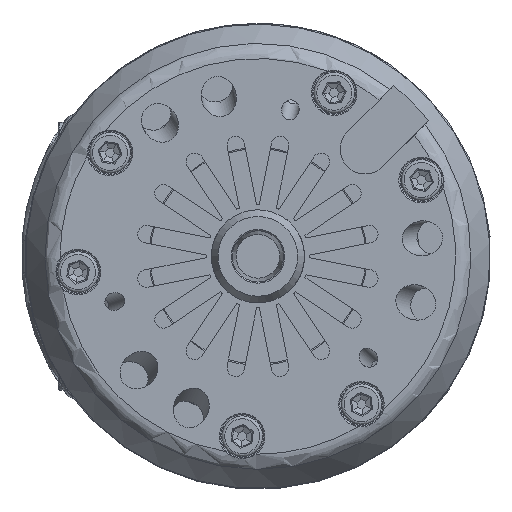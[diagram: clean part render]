
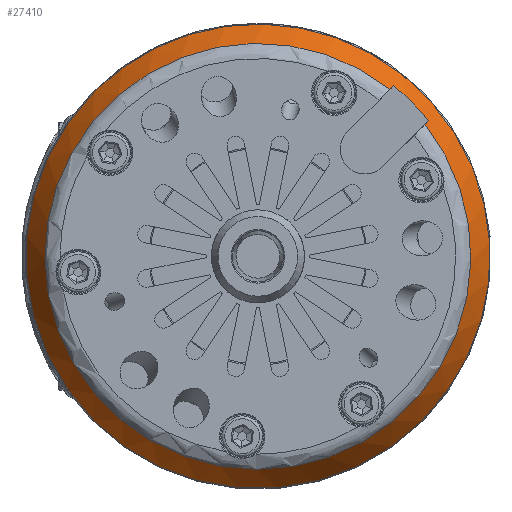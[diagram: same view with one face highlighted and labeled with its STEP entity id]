
A CAD part, front view. The second image highlights one B-rep face of the part: STEP entity #27410.
In plain terms, the highlighted conical face has half-angle 30 degrees and reference radius 36.566 mm.
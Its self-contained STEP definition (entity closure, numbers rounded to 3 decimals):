
#3750 = DIRECTION ( 'NONE',  ( 0.707, 0., -0.707 ) ) ;
#4269 = ORIENTED_EDGE ( 'NONE', *, *, #5049, .T. ) ;
#5049 = EDGE_CURVE ( 'NONE', #12647, #12647, #31933, .T. ) ;
#8217 = CIRCLE ( 'NONE', #28400, 37.432 ) ;
#9397 = CARTESIAN_POINT ( 'NONE',  ( 29.303, -16.2, 23.292 ) ) ;
#10960 = FACE_OUTER_BOUND ( 'NONE', #36426, .T. ) ;
#12647 = VERTEX_POINT ( 'NONE', #46220 ) ;
#16414 = CARTESIAN_POINT ( 'NONE',  ( 22.881, -17.2, 28.892 ) ) ;
#16880 = CARTESIAN_POINT ( 'NONE',  ( 0., -11.984, 0. ) ) ;
#19943 = VERTEX_POINT ( 'NONE', #52050 ) ;
#21106 = DIRECTION ( 'NONE',  ( 0., -1., 0. ) ) ;
#21544 = DIRECTION ( 'NONE',  ( 0., -1., 0. ) ) ;
#24683 = CARTESIAN_POINT ( 'NONE',  ( 23.087, -16.7, 29.097 ) ) ;
#25737 = CARTESIAN_POINT ( 'NONE',  ( 23.292, -16.2, 29.303 ) ) ;
#27209 = AXIS2_PLACEMENT_3D ( 'NONE', #51537, #21106, #28814 ) ;
#27410 = ADVANCED_FACE ( 'NONE', ( #10960, #33278 ), #38284, .T. ) ;
#27731 = VERTEX_POINT ( 'NONE', #42067 ) ;
#28400 = AXIS2_PLACEMENT_3D ( 'NONE', #50242, #32949, #3750 ) ;
#28814 = DIRECTION ( 'NONE',  ( 0.707, 0., -0.707 ) ) ;
#28846 = DIRECTION ( 'NONE',  ( 0., 1., 0. ) ) ;
#30766 = EDGE_CURVE ( 'NONE', #19943, #35873, #39555, .T. ) ;
#31278 = VERTEX_POINT ( 'NONE', #31621 ) ;
#31621 = CARTESIAN_POINT ( 'NONE',  ( 23.292, -16.2, 29.303 ) ) ;
#31933 = CIRCLE ( 'NONE', #40742, 39.866 ) ;
#32949 = DIRECTION ( 'NONE',  ( 0., 1., 0. ) ) ;
#32998 = AXIS2_PLACEMENT_3D ( 'NONE', #50028, #28846, #53613 ) ;
#33278 = FACE_BOUND ( 'NONE', #50394, .T. ) ;
#35873 = VERTEX_POINT ( 'NONE', #42811 ) ;
#36426 = EDGE_LOOP ( 'NONE', ( #4269 ) ) ;
#36919 = CIRCLE ( 'NONE', #27209, 36.566 ) ;
#37812 = CARTESIAN_POINT ( 'NONE',  ( 29.097, -16.7, 23.087 ) ) ;
#38284 = CONICAL_SURFACE ( 'NONE', #32998, 36.566, 0.524 ) ;
#38449 = EDGE_CURVE ( 'NONE', #27731, #19943, #36919, .T. ) ;
#39555 = B_SPLINE_CURVE_WITH_KNOTS ( 'NONE', 3,
 ( #50152, #46557, #37812, #9397 ),
 .UNSPECIFIED., .F., .F.,
 ( 4, 4 ),
 ( 0.026, 0.027 ),
 .UNSPECIFIED. ) ;
#40742 = AXIS2_PLACEMENT_3D ( 'NONE', #16880, #21544, #46577 ) ;
#42067 = CARTESIAN_POINT ( 'NONE',  ( 22.676, -17.7, 28.686 ) ) ;
#42811 = CARTESIAN_POINT ( 'NONE',  ( 29.303, -16.2, 23.292 ) ) ;
#44856 = ORIENTED_EDGE ( 'NONE', *, *, #45666, .F. ) ;
#45215 = EDGE_CURVE ( 'NONE', #31278, #35873, #8217, .T. ) ;
#45666 = EDGE_CURVE ( 'NONE', #31278, #27731, #53516, .T. ) ;
#46220 = CARTESIAN_POINT ( 'NONE',  ( 28.19, -11.984, -28.19 ) ) ;
#46557 = CARTESIAN_POINT ( 'NONE',  ( 28.892, -17.2, 22.881 ) ) ;
#46577 = DIRECTION ( 'NONE',  ( 0.707, 0., -0.707 ) ) ;
#47544 = ORIENTED_EDGE ( 'NONE', *, *, #45215, .T. ) ;
#50028 = CARTESIAN_POINT ( 'NONE',  ( 0., -17.7, 0. ) ) ;
#50152 = CARTESIAN_POINT ( 'NONE',  ( 28.686, -17.7, 22.676 ) ) ;
#50242 = CARTESIAN_POINT ( 'NONE',  ( 0., -16.2, 0. ) ) ;
#50394 = EDGE_LOOP ( 'NONE', ( #44856, #47544, #51960, #54411 ) ) ;
#50507 = CARTESIAN_POINT ( 'NONE',  ( 22.676, -17.7, 28.686 ) ) ;
#51537 = CARTESIAN_POINT ( 'NONE',  ( 0., -17.7, 0. ) ) ;
#51960 = ORIENTED_EDGE ( 'NONE', *, *, #30766, .F. ) ;
#52050 = CARTESIAN_POINT ( 'NONE',  ( 28.686, -17.7, 22.676 ) ) ;
#53516 = B_SPLINE_CURVE_WITH_KNOTS ( 'NONE', 3,
 ( #25737, #24683, #16414, #50507 ),
 .UNSPECIFIED., .F., .F.,
 ( 4, 4 ),
 ( 0.024, 0.025 ),
 .UNSPECIFIED. ) ;
#53613 = DIRECTION ( 'NONE',  ( -0.707, 0., 0.707 ) ) ;
#54411 = ORIENTED_EDGE ( 'NONE', *, *, #38449, .F. ) ;
